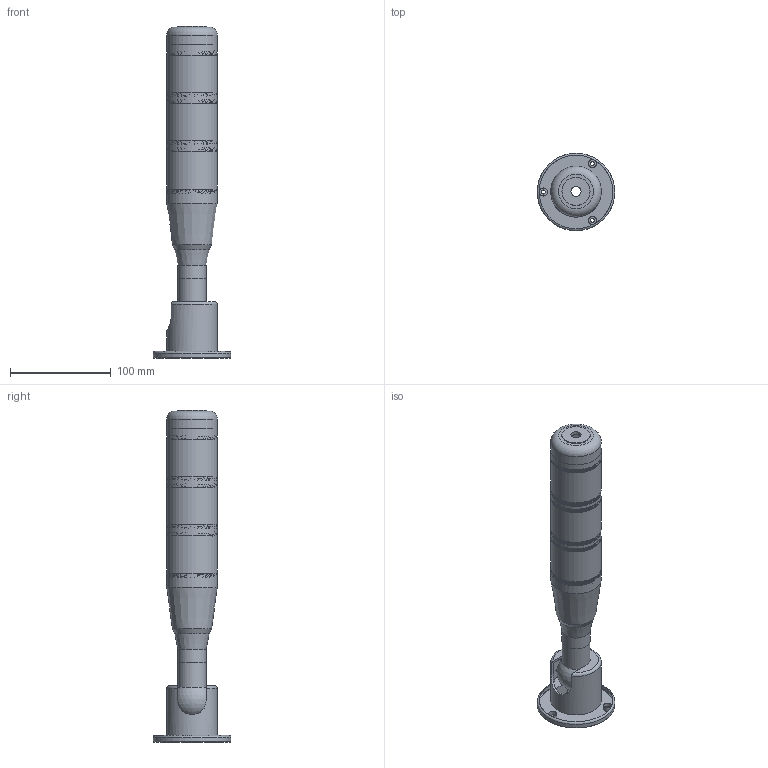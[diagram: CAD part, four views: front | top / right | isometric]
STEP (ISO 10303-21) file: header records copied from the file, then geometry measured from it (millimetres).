
FILE_DESCRIPTION(/* description */ (''),/* implementation_level */ '2;1');
FILE_NAME(/* name */ 'OLE2-301 带蜂鸣.stp',/* time_stamp */ '2022-12-13T17:16:40+08:00',/* author */ (''),/* organization */ (''),/* preprocessor_version */ 'ST-DEVELOPER v16.7',/* originating_system */ 'SIEMENS PLM Software NX 12.0',/* authorisation */ '');
FILE_SCHEMA (('AUTOMOTIVE_DESIGN { 1 0 10303 214 3 1 1 1 }'));
Products named in the file (1): Admi15EC76A1t4fb
Bounding box: 77 x 77 x 329.5 mm (x, y, z)
Volume: 167892.7 mm3; surface area: 157920.1 mm2
Topology: 13 solids, 15 shells, 1601 faces, 3870 edges, 2580 vertices
Faces by surface type: plane 1423, cylinder 104, bspline 51, cone 17, torus 4, sphere 2
Full cylindrical faces by diameter (mm): 4 x3, 8 x3, 10 x1, 17.5 x1, 18 x2, 21.5 x1, 22 x1, 23.5 x1, 24.3 x10, 28 x3, 32 x3, 34 x1, 38 x1, 42 x1, 43 x3, 44.2 x3, 45 x1, 46 x6, 46.3 x5, 47 x1, 48 x1, 50 x5, 50.3 x4, 77 x1
Entity records: 66757 total; most frequent: CARTESIAN_POINT 31726, ORIENTED_EDGE 7358, DIRECTION 6151, EDGE_CURVE 3679, LINE 2773, VECTOR 2773, VERTEX_POINT 2481, EDGE_LOOP 1956
